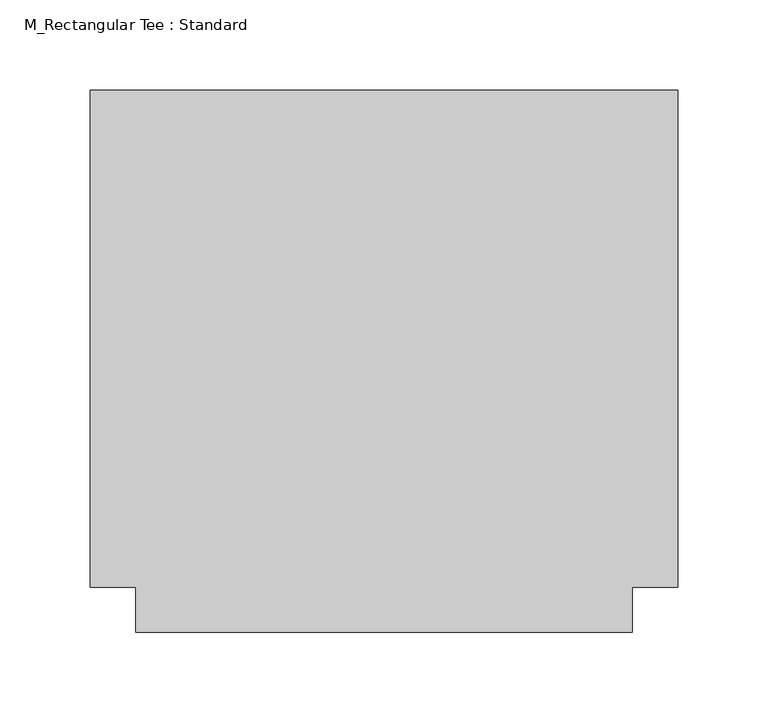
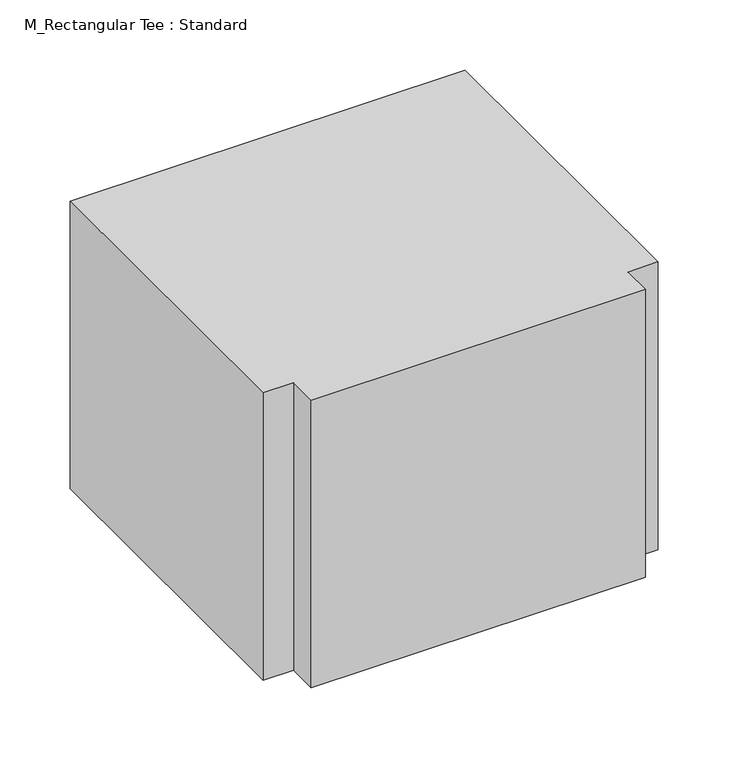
"""IFC4 building model written with IfcOpenShell, lengths in millimetres: duct fitting geometry, M_Rectangular Tee : Standard."""

from ifc_helpers import new_model, si_unit, frame, origin, place, context, project, spatial, polyline, outline, extrude, source, transform, mapped, element, save


def m_rectangular_tee_standard_b73c3011(model_context):
    return source(origin(), model_context, "Body", "SweptSolid", [
        extrude(outline(polyline([(-162.5, -137.5), (-162.5, 137.5), (162.5, 137.5), (162.5, -137.5), (137.5, -137.5), (137.5, -162.5), (-137.5, -162.5), (-137.5, -137.5), (-162.5, -137.5)])), frame((0.0, 0.0, -125.0), z_axis=(0.0, 0.0, 1.0), x_axis=(1.0, 0.0, 0.0)), (0.0, 0.0, 1.0), 250.0),
        extrude(outline(polyline([(-162.5, 137.5), (162.5, 137.5), (162.5, -137.5), (137.5, -137.5), (137.5, -162.5), (-137.5, -162.5), (-137.5, -137.5), (-162.5, -137.5), (-162.5, 137.5)])), frame((0.0, 0.0, -125.0), z_axis=(0.0, 0.0, 1.0), x_axis=(1.0, 0.0, 0.0)), (0.0, 0.0, 1.0), 250.0),
        extrude(outline(polyline([(-162.5, -137.5), (-162.5, 137.5), (162.5, 137.5), (162.5, -137.5), (137.5, -137.5), (137.5, -162.5), (-137.5, -162.5), (-137.5, -137.5), (-162.5, -137.5)])), frame((0.0, 0.0, -125.0), z_axis=(0.0, 0.0, 1.0), x_axis=(1.0, 0.0, 0.0)), (0.0, 0.0, 1.0), 250.0),
    ])


if __name__ == "__main__":
    model = new_model("IFC4")
    model_context = context("Model", 3, world=origin())
    ifc_project = project(units=[si_unit("LENGTHUNIT", "METRE", prefix="MILLI")], contexts=[model_context])
    site = spatial("IfcSite", under=ifc_project)
    building = spatial("IfcBuilding", under=site)
    placement = place(None, origin())
    m_rectangular_tee_standard_shape = m_rectangular_tee_standard_b73c3011(model_context)
    element("IfcDuctFitting", 1, ObjectType="M_Rectangular Tee : Standard", at=placement, inside=building, context=model_context, shape_type="MappedRepresentation", body=[
        mapped(m_rectangular_tee_standard_shape, transform((0.0, 0.0, 0.0), x_axis=(1.0, 0.0, 0.0), y_axis=(0.0, 1.0, 0.0), z_axis=(0.0, 0.0, 1.0))),
    ])
    save(model, "model.ifc")
